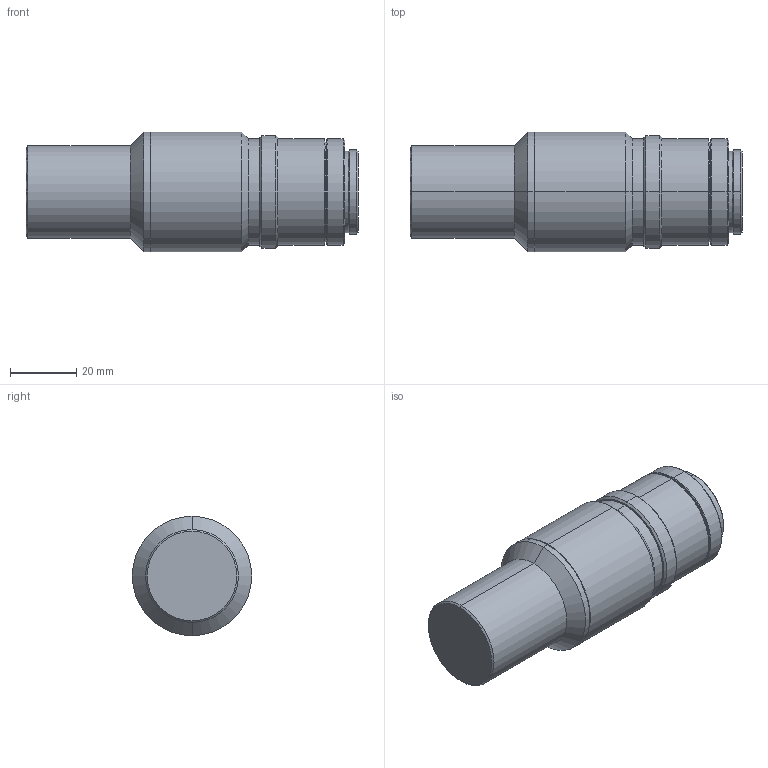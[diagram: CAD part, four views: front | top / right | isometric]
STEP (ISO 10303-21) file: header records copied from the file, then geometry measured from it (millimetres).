
FILE_DESCRIPTION (( 'STEP AP203' ), '1' );
FILE_NAME ('VS-TCM1-65_S.STEP', '2016-06-01T06:48:45', ( 'miura_vst' ), ( '' ), 'SwSTEP 2.0', 'SolidWorks 2016', '' );
FILE_SCHEMA (( 'CONFIG_CONTROL_DESIGN' ));
Length unit declared in the file: millimetre
Products named in the file (1): VS-TCM1-65_S
Bounding box: 100.1 x 36 x 36 mm (x, y, z)
Volume: 80297.2 mm3; surface area: 11984.8 mm2
Topology: 1 solids, 1 shells, 55 faces, 108 edges, 60 vertices
Faces by surface type: cone 28, cylinder 20, plane 7
Entity records: 1471 total; most frequent: DIRECTION 280, CARTESIAN_POINT 224, ORIENTED_EDGE 216, AXIS2_PLACEMENT_3D 116, EDGE_CURVE 108, VERTEX_POINT 60, EDGE_LOOP 60, CIRCLE 60
